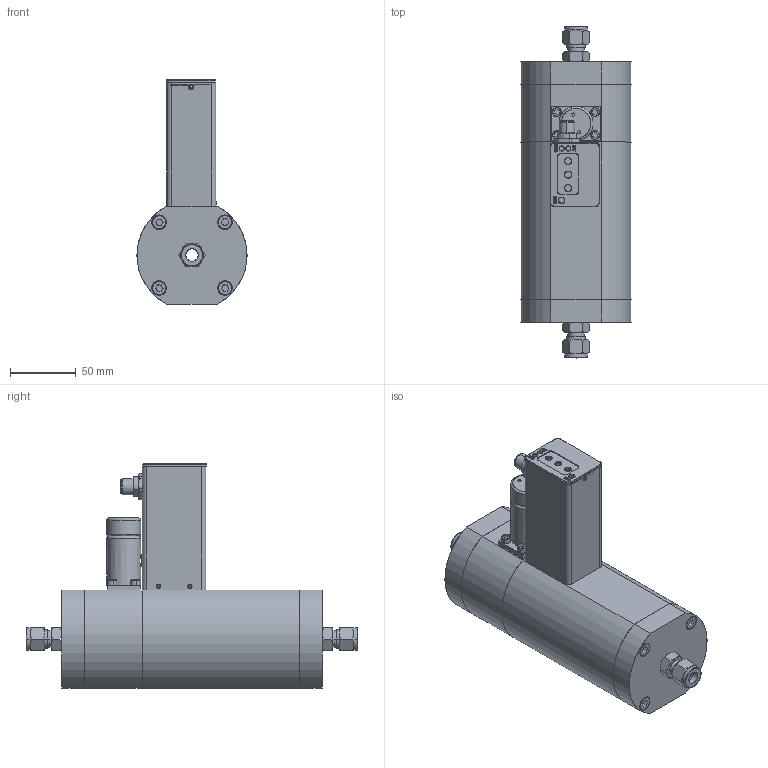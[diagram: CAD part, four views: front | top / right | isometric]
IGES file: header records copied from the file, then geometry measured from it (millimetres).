
Start section: SolidWorks IGES file using analytic representation for surfaces
Global section: file name: G:\Engineering\CAD MODELS FOR SALES\CAD MODEL STORAGE\SLA\SLA5853\IGES\SLA5853-D-2C-2-A-REVB.IGS; native system: SolidWorks 2017; preprocessor: SolidWorks 2017; author: JStauffer1; date: 180917.114728; units: millimetre
Bounding box: 84 x 253.16 x 171.06 mm (x, y, z)
Surface area: 124557.7 mm2 (no closed solid volume)
Topology: 0 solids, 0 shells, 555 faces, 8213 edges, 8213 vertices
Faces by surface type: bspline 286, revolution 269
